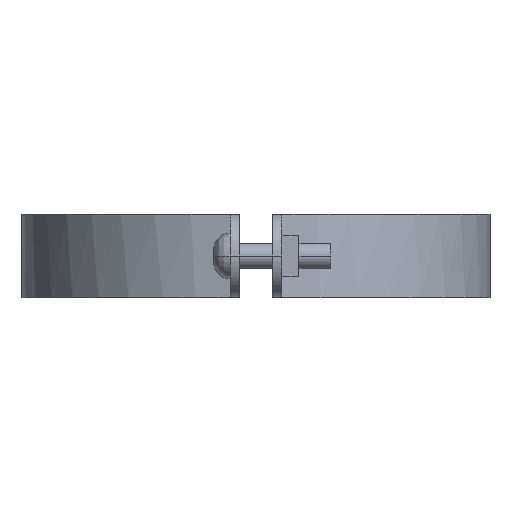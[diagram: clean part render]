
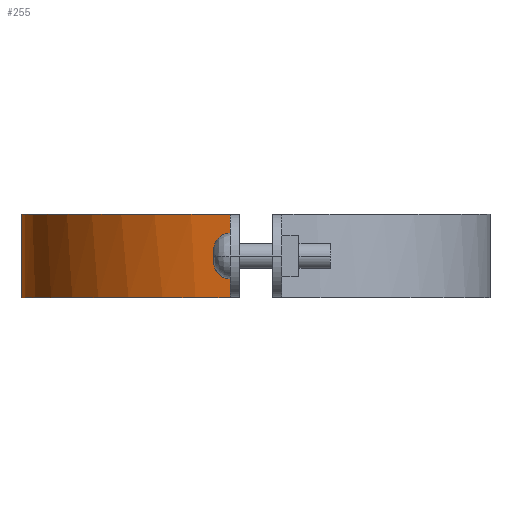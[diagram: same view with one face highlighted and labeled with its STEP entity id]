
A CAD part, left-side view. The second image highlights one B-rep face of the part: STEP entity #255.
In plain terms, the highlighted free-form (B-spline) face has degree [3, 1] with [4, 2] control points.
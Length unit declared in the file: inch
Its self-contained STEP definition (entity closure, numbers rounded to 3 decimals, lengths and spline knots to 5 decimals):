
#255=ADVANCED_FACE('',(#509),#510,.T.);
#509=FACE_OUTER_BOUND('',#1009,.T.);
#510=B_SPLINE_SURFACE_WITH_KNOTS('',3,1,((#1010,#1011),(#1012,#1013),(#1014,#1015),(#1016,#1017)),.UNSPECIFIED.,.F.,.F.,.F.,(4,4),(2,2),(0.0,1.0),(0.0,1.25),.UNSPECIFIED.);
#1009=EDGE_LOOP('',(#1736,#1737,#1738,#1739));
#1010=CARTESIAN_POINT('',(4.22089,6.66754,0.0));
#1011=CARTESIAN_POINT('',(4.22089,6.66754,1.25));
#1012=CARTESIAN_POINT('',(2.43052,6.66754,0.0));
#1013=CARTESIAN_POINT('',(2.43052,6.66754,1.25));
#1014=CARTESIAN_POINT('',(0.92681,5.32065,0.0));
#1015=CARTESIAN_POINT('',(0.92681,5.32065,1.25));
#1016=CARTESIAN_POINT('',(0.73044,3.5411,0.0));
#1017=CARTESIAN_POINT('',(0.73044,3.5411,1.25));
#1736=ORIENTED_EDGE('',*,*,#2177,.T.);
#1737=ORIENTED_EDGE('',*,*,#2141,.T.);
#1738=ORIENTED_EDGE('',*,*,#2116,.T.);
#1739=ORIENTED_EDGE('',*,*,#2182,.F.);
#2116=EDGE_CURVE('',#2464,#2461,#2465,.T.);
#2141=EDGE_CURVE('',#2498,#2464,#2504,.T.);
#2177=EDGE_CURVE('',#2545,#2498,#2554,.T.);
#2182=EDGE_CURVE('',#2545,#2461,#2559,.T.);
#2461=VERTEX_POINT('',#3059);
#2464=VERTEX_POINT('',#3063);
#2465=B_SPLINE_CURVE_WITH_KNOTS('',3,(#3064,#3065,#3066,#3067),.UNSPECIFIED.,.F.,.F.,(4,4),(-1.0,-0.0),.UNSPECIFIED.);
#2498=VERTEX_POINT('',#3121);
#2504=LINE('',#3134,#3135);
#2545=VERTEX_POINT('',#3210);
#2554=B_SPLINE_CURVE_WITH_KNOTS('',3,(#3226,#3227,#3228,#3229),.UNSPECIFIED.,.F.,.F.,(4,4),(0.0,1.0),.UNSPECIFIED.);
#2559=LINE('',#3238,#3239);
#3059=CARTESIAN_POINT('',(4.22089,6.66754,1.24992));
#3063=CARTESIAN_POINT('',(0.73044,3.5411,1.24992));
#3064=CARTESIAN_POINT('',(0.73044,3.5411,1.24992));
#3065=CARTESIAN_POINT('',(0.92681,5.32065,1.24992));
#3066=CARTESIAN_POINT('',(2.43052,6.66754,1.24992));
#3067=CARTESIAN_POINT('',(4.22089,6.66754,1.24992));
#3121=CARTESIAN_POINT('',(0.73044,3.5411,0.00011));
#3134=CARTESIAN_POINT('',(0.73044,3.5411,0.0));
#3135=VECTOR('',#3466,1.0);
#3210=CARTESIAN_POINT('',(4.22089,6.66754,0.00011));
#3226=CARTESIAN_POINT('',(4.22089,6.66754,0.00011));
#3227=CARTESIAN_POINT('',(2.43052,6.66754,0.00011));
#3228=CARTESIAN_POINT('',(0.92681,5.32065,0.00011));
#3229=CARTESIAN_POINT('',(0.73044,3.5411,0.00011));
#3238=CARTESIAN_POINT('',(4.22089,6.66754,0.0));
#3239=VECTOR('',#3485,1.0);
#3466=DIRECTION('',(0.0,0.0,1.0));
#3485=DIRECTION('',(0.0,0.0,1.0));
